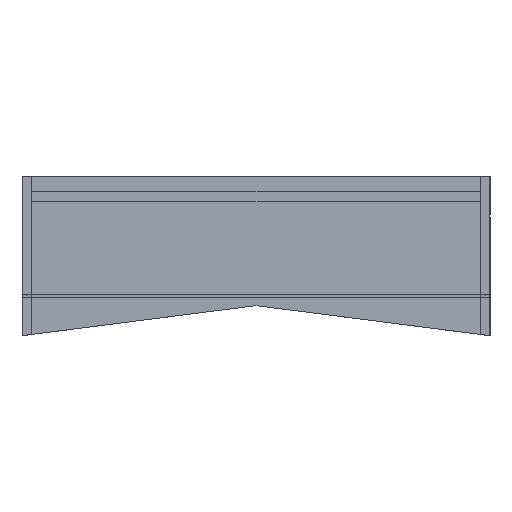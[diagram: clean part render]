
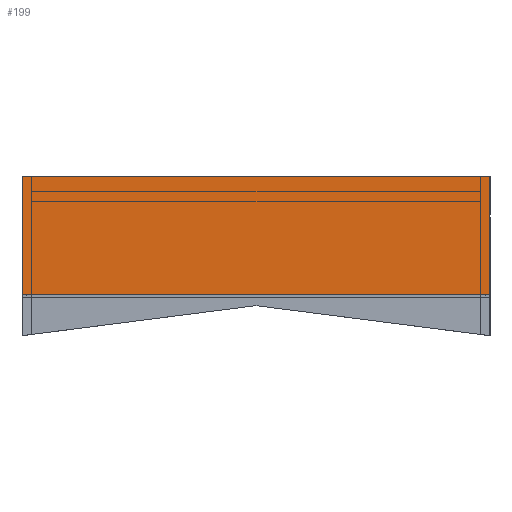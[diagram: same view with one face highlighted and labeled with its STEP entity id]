
A CAD part, left-side view. The second image highlights one B-rep face of the part: STEP entity #199.
In plain terms, the highlighted planar face has unit normal (-1, 0, 0).
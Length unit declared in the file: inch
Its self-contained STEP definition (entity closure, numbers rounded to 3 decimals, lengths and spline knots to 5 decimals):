
#199=ADVANCED_FACE('',(#493),#4645,.T.);
#493=FACE_OUTER_BOUND('',#803,.T.);
#803=EDGE_LOOP('',(#1599,#1600,#1601,#1602));
#1599=ORIENTED_EDGE('',*,*,#2810,.F.);
#1600=ORIENTED_EDGE('',*,*,#2791,.F.);
#1601=ORIENTED_EDGE('',*,*,#2809,.T.);
#1602=ORIENTED_EDGE('',*,*,#2804,.F.);
#2791=EDGE_CURVE('',#4219,#4221,#3547,.T.);
#2804=EDGE_CURVE('',#4228,#4227,#3560,.T.);
#2809=EDGE_CURVE('',#4219,#4227,#3565,.T.);
#2810=EDGE_CURVE('',#4221,#4228,#3566,.T.);
#3547=B_SPLINE_CURVE_WITH_KNOTS('',1,(#6451,#6452),.UNSPECIFIED.,.F.,.F.,
(2,2),(-126.00568,-102.50568),.UNSPECIFIED.);
#3560=B_SPLINE_CURVE_WITH_KNOTS('',1,(#6479,#6480),.UNSPECIFIED.,.F.,.F.,
(2,2),(-23.49999,0.),.UNSPECIFIED.);
#3565=B_SPLINE_CURVE_WITH_KNOTS('',1,(#6489,#6490),.UNSPECIFIED.,.F.,.F.,
(2,2),(0.,5.9375),.UNSPECIFIED.);
#3566=B_SPLINE_CURVE_WITH_KNOTS('',1,(#6491,#6492),.UNSPECIFIED.,.F.,.F.,
(2,2),(0.,5.9375),.UNSPECIFIED.);
#4219=VERTEX_POINT('',#6423);
#4221=VERTEX_POINT('',#6425);
#4227=VERTEX_POINT('',#6431);
#4228=VERTEX_POINT('',#6432);
#4645=PLANE('',#5030);
#5030=AXIS2_PLACEMENT_3D('',#6415,#5328,$);
#5328=DIRECTION('',(-1.,0.,0.));
#6415=CARTESIAN_POINT('',(4601.35837,-215.35911,252.96414));
#6423=CARTESIAN_POINT('',(4601.35837,-215.35911,252.96414));
#6425=CARTESIAN_POINT('',(4601.35837,-238.85911,252.96414));
#6431=CARTESIAN_POINT('',(4601.35837,-215.35911,247.02664));
#6432=CARTESIAN_POINT('',(4601.35837,-238.85911,247.02664));
#6451=CARTESIAN_POINT('',(4601.35837,-215.35911,252.96414));
#6452=CARTESIAN_POINT('',(4601.35837,-238.85911,252.96414));
#6479=CARTESIAN_POINT('',(4601.35837,-238.85911,247.02664));
#6480=CARTESIAN_POINT('',(4601.35837,-215.35911,247.02664));
#6489=CARTESIAN_POINT('',(4601.35837,-215.35911,252.96414));
#6490=CARTESIAN_POINT('',(4601.35837,-215.35911,247.02664));
#6491=CARTESIAN_POINT('',(4601.35837,-238.85911,252.96414));
#6492=CARTESIAN_POINT('',(4601.35837,-238.85911,247.02664));
